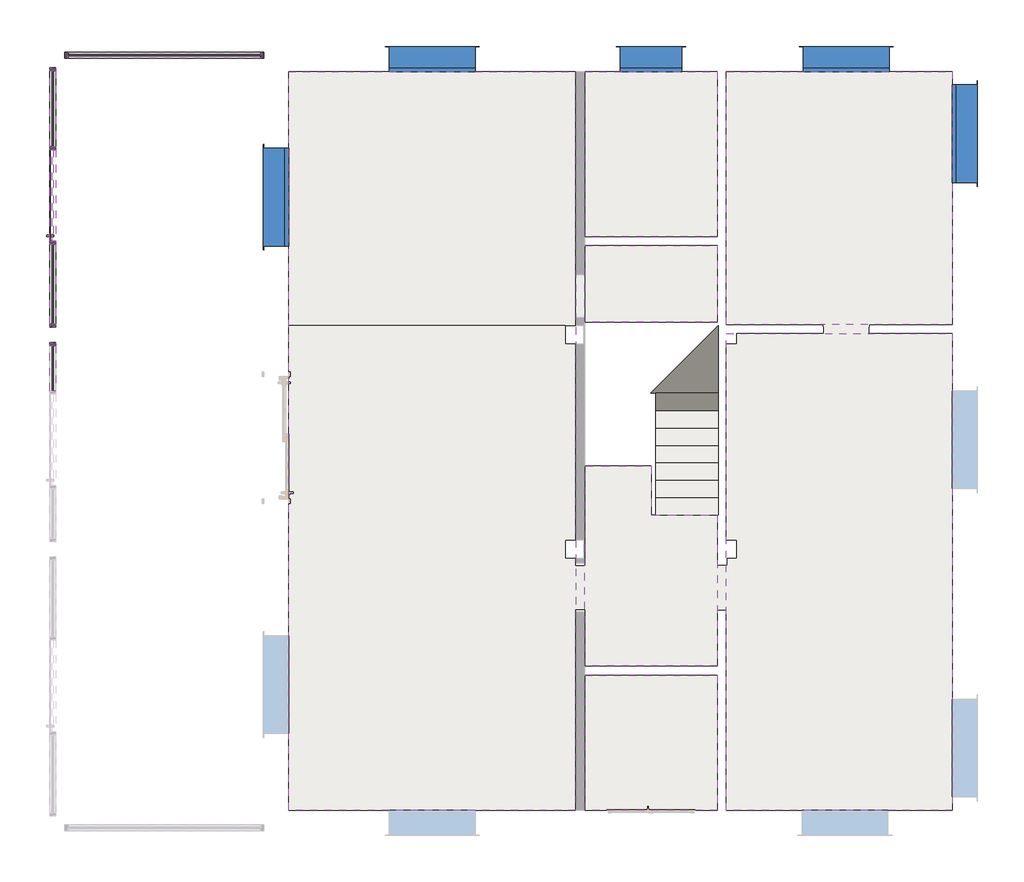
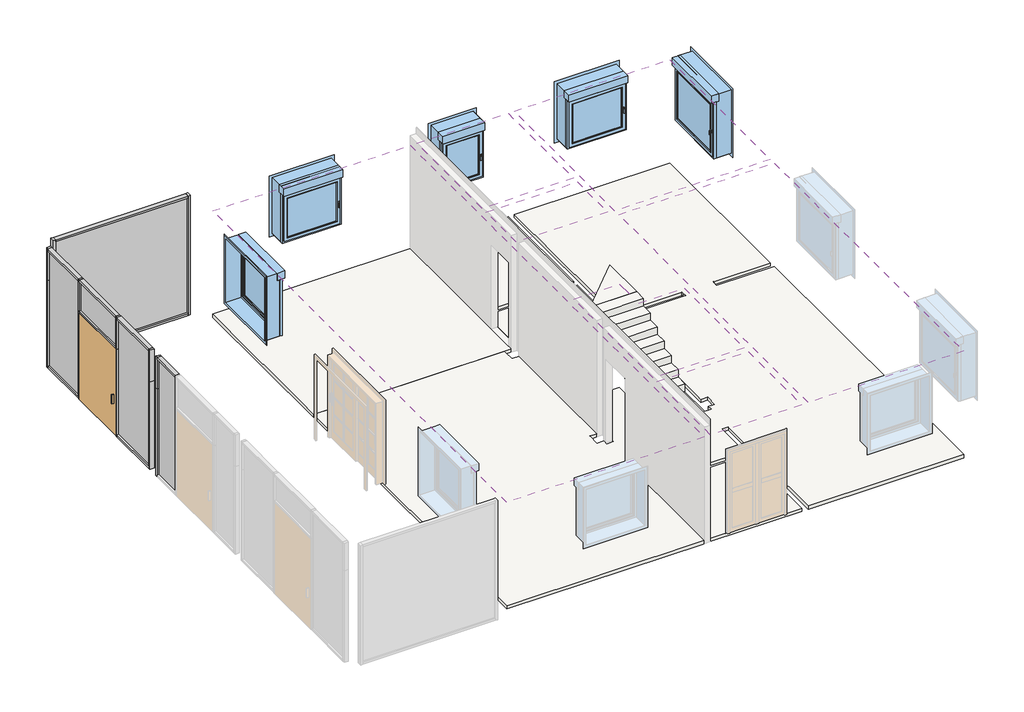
# One storey, part 2 of 2: 21 members, 8 coverings, 5 plates, 5 windows, 4 slabs, 1 door.
"""IFC4 building model written with IfcOpenShell, lengths in millimetres."""

from ifc_helpers import new_model, si_unit, frame, origin, place, context, project, spatial, polyline, outline, extrude, faceted_brep, transform, mapped, element, save
from components import puerta_de_cristal_abatible_en_muro_cortina_puerta_de_cristal_e47abdd4, montante_rectangular_montante_rectangular_5_x_10_cm_757a3403, montante_rectangular_montante_rectangular_5_x_10_cm_89af3980, montante_rectangular_montante_rectangular_5_x_10_cm_7540c517, montante_rectangular_montante_rectangular_5_x_10_cm_b6a986cb, montante_rectangular_montante_rectangular_5_x_10_cm_a84122ff, montante_rectangular_montante_rectangular_5_x_10_cm_d58ae21d, montante_rectangular_montante_rectangular_5_x_10_cm_def201b9, montante_rectangular_montante_rectangular_5_x_10_cm_ecc333cd, montante_rectangular_montante_rectangular_5_x_10_cm_75cd286d, montante_rectangular_montante_rectangular_5_x_10_cm_3bdb59d8, montante_rectangular_montante_rectangular_5_x_10_cm_b7e3f8f0, montante_rectangular_montante_rectangular_5_x_10_cm_58fb9ff4, montante_rectangular_montante_rectangular_5_x_10_cm_e7dd39f4, montante_rectangular_montante_rectangular_5_x_10_cm_abb3eff5, montante_rectangular_montante_rectangular_5_x_10_cm_99f3dc7d, montante_rectangular_montante_rectangular_5_x_10_cm_4604db76, montante_rectangular_montante_rectangular_5_x_10_cm_c0600e94, panel_de_sistema_acristalado_2e88a5b3, panel_de_sistema_acristalado_533c302c, panel_de_sistema_acristalado_0da035d6, panel_de_sistema_acristalado_3b8b9301, panel_de_sistema_acristalado_f75cf846, losa_escalera_2_losa_escalera_2_3b4d2fc1, losa_escalera_losa_escalera_d81f02f8, ventana_1_hoja_ve1_100_x_140_cm_ea734483, ventana_1_hoja_ve1_140_x_140_cm_f22eddc7, ventana_1_hoja_ve1_160_x_160_cm_969c779d

model = new_model("IFC4")

# Units and contexts
model_context = context("Model", 3, world=origin())
ifc_project = project(units=[si_unit("LENGTHUNIT", "METRE", prefix="MILLI")], contexts=[model_context])

# Site, building, storey
site = spatial("IfcSite", under=ifc_project)
building = spatial("IfcBuilding", under=site)
storey = spatial("IfcBuildingStorey", under=building, Name="01.AR.PLANTA BAJA ACAB.SUELO", Elevation=200.0)

# Coverings
placement = place(None, origin())
element("IfcCovering", 1, ObjectType="Falso techo continuo de placa de yeso laminado", at=placement, inside=storey, context=model_context, shape_type="SweptSolid", body=[
    extrude(outline(polyline([(11400.0, 3025.0), (11400.0, 815.0), (9230.0, 815.0), (9230.0, 3025.0), (11400.0, 3025.0)])), frame((0.0, 0.0, 2800.0), z_axis=(0.0, 0.0, 1.0), x_axis=(1.0, 0.0, 0.0)), (0.0, 0.0, 1.0), 60.0),
])
element("IfcCovering", 2, ObjectType="Falso techo continuo de placa de yeso laminado", at=placement, inside=storey, context=model_context, shape_type="SweptSolid", body=[
    extrude(outline(polyline([(15245.0, 815.0), (11550.0, 815.0), (11550.0, 8615.0), (15245.0, 8615.0), (15245.0, 815.0)])), frame((0.0, 0.0, 2800.0), z_axis=(0.0, 0.0, 1.0), x_axis=(1.0, 0.0, 0.0)), (0.0, 0.0, 1.0), 60.0),
])
element("IfcCovering", 3, ObjectType="Falso techo continuo de placa de yeso laminado", at=placement, inside=storey, context=model_context, shape_type="SweptSolid", body=[
    extrude(outline(polyline([(11550.0, 12906.5177396), (15245.0, 12906.5177396), (15245.0, 8765.0), (11550.0, 8765.0), (11550.0, 12906.5177396)])), frame((0.0, 0.0, 2800.0), z_axis=(0.0, 0.0, 1.0), x_axis=(1.0, 0.0, 0.0)), (0.0, 0.0, 1.0), 60.0),
])
element("IfcCovering", 4, ObjectType="Falso techo continuo de placa de yeso laminado", at=placement, inside=storey, context=model_context, shape_type="SweptSolid", body=[
    extrude(outline(polyline([(9230.0, 10205.0), (9230.0, 12906.5177396), (11400.0, 12906.5177396), (11400.0, 10205.0), (9230.0, 10205.0)])), frame((0.0, 0.0, 2800.0), z_axis=(0.0, 0.0, 1.0), x_axis=(1.0, 0.0, 0.0)), (0.0, 0.0, 1.0), 60.0),
])
element("IfcCovering", 5, ObjectType="Falso techo continuo de placa de yeso laminado", at=placement, inside=storey, context=model_context, shape_type="SweptSolid", body=[
    extrude(outline(polyline([(11400.0, 8805.0), (9230.0, 8805.0), (9230.0, 10055.0), (11400.0, 10055.0), (11400.0, 8805.0)])), frame((0.0, 0.0, 2800.0), z_axis=(0.0, 0.0, 1.0), x_axis=(1.0, 0.0, 0.0)), (0.0, 0.0, 1.0), 60.0),
])
element("IfcCovering", 6, ObjectType="Falso techo continuo de placa de yeso laminado", at=placement, inside=storey, context=model_context, shape_type="SweptSolid", body=[
    extrude(outline(polyline([(9080.0, 815.0), (4385.0, 815.0), (4385.0, 12906.5177396), (9080.0, 12906.5177396), (9080.0, 815.0)])), frame((0.0, 0.0, 2800.0), z_axis=(0.0, 0.0, 1.0), x_axis=(1.0, 0.0, 0.0)), (0.0, 0.0, 1.0), 60.0),
])
element("IfcCovering", 7, ObjectType="Falso techo continuo de placa de yeso laminado", at=placement, inside=storey, context=model_context, shape_type="SweptSolid", body=[
    extrude(outline(polyline([(9080.0, 815.0), (4385.0, 815.0), (4385.0, 12906.5177396), (9080.0, 12906.5177396), (9080.0, 815.0)])), frame((0.0, 0.0, 2800.0), z_axis=(0.0, 0.0, 1.0), x_axis=(1.0, 0.0, 0.0)), (0.0, 0.0, 1.0), 60.0),
])
element("IfcCovering", 8, ObjectType="Falso techo continuo de placa de yeso laminado", at=placement, inside=storey, context=model_context, shape_type="SweptSolid", body=[
    extrude(outline(polyline([(11400.0, 3175.0), (9230.0, 3175.0), (9230.0, 6450.0), (10320.0, 6450.0), (10320.0, 5650.0), (11400.0, 5650.0), (11400.0, 3175.0)])), frame((0.0, 0.0, 2800.0), z_axis=(0.0, 0.0, 1.0), x_axis=(1.0, 0.0, 0.0)), (0.0, 0.0, 1.0), 60.0),
])

# Door
puerta_de_cristal_abatible_en_muro_cortina_puerta_de_cristal_shape = puerta_de_cristal_abatible_en_muro_cortina_puerta_de_cristal_e47abdd4(model_context)
element("IfcDoor", 9, ObjectType="Puerta de cristal abatible en muro cortina : Puerta de cristal abatible en muro cortina", at=placement, inside=storey, context=model_context, shape_type="MappedRepresentation", body=[
    mapped(puerta_de_cristal_abatible_en_muro_cortina_puerta_de_cristal_shape, transform((525.0, 10880.0, 200.0), x_axis=(0.0, 1.0, 0.0), y_axis=(-1.0, 0.0, 0.0), z_axis=(0.0, 0.0, 1.0))),
])

# Members
montante_rectangular_montante_rectangular_5_x_10_cm_shape = montante_rectangular_montante_rectangular_5_x_10_cm_757a3403(model_context)
element("IfcMember", 10, ObjectType="Montante rectangular : Montante rectangular - 5 x 10 cm", at=placement, inside=storey, context=model_context, shape_type="MappedRepresentation", body=[
    mapped(montante_rectangular_montante_rectangular_5_x_10_cm_shape, transform((3925.0, 13175.0, 3200.0), x_axis=(0.0, 0.0, 1.0), y_axis=(0.0, -1.0, 0.0), z_axis=(1.0, 0.0, 0.0))),
])
montante_rectangular_montante_rectangular_5_x_10_cm_2_shape = montante_rectangular_montante_rectangular_5_x_10_cm_89af3980(model_context)
element("IfcMember", 11, ObjectType="Montante rectangular : Montante rectangular - 5 x 10 cm", at=placement, inside=storey, context=model_context, shape_type="MappedRepresentation", body=[
    mapped(montante_rectangular_montante_rectangular_5_x_10_cm_2_shape, transform((775.0, 13175.0, 200.0), x_axis=(0.0, 0.0, -1.0), y_axis=(0.0, -1.0, 0.0), z_axis=(-1.0, 0.0, 0.0))),
])
montante_rectangular_montante_rectangular_5_x_10_cm_3_shape = montante_rectangular_montante_rectangular_5_x_10_cm_7540c517(model_context)
element("IfcMember", 12, ObjectType="Montante rectangular : Montante rectangular - 5 x 10 cm", at=placement, inside=storey, context=model_context, shape_type="MappedRepresentation", body=[
    mapped(montante_rectangular_montante_rectangular_5_x_10_cm_3_shape, transform((725.0, 13175.0, 3200.0), x_axis=(-1.0, 0.0, 0.0), y_axis=(0.0, -1.0, 0.0), z_axis=(0.0, 0.0, 1.0))),
])
montante_rectangular_montante_rectangular_5_x_10_cm_4_shape = montante_rectangular_montante_rectangular_5_x_10_cm_b6a986cb(model_context)
element("IfcMember", 13, ObjectType="Montante rectangular : Montante rectangular - 5 x 10 cm", at=placement, inside=storey, context=model_context, shape_type="MappedRepresentation", body=[
    mapped(montante_rectangular_montante_rectangular_5_x_10_cm_4_shape, transform((3975.0, 13175.0, 200.0), x_axis=(1.0, 0.0, 0.0), y_axis=(0.0, -1.0, 0.0), z_axis=(0.0, 0.0, -1.0))),
])
montante_rectangular_montante_rectangular_5_x_10_cm_5_shape = montante_rectangular_montante_rectangular_5_x_10_cm_a84122ff(model_context)
element("IfcMember", 14, ObjectType="Montante rectangular : Montante rectangular - 5 x 10 cm", at=placement, inside=storey, context=model_context, shape_type="MappedRepresentation", body=[
    mapped(montante_rectangular_montante_rectangular_5_x_10_cm_5_shape, transform((525.0, 12925.0, 3200.0), x_axis=(0.0, 0.0, 1.0), y_axis=(1.0, 0.0, 0.0), z_axis=(0.0, 1.0, 0.0))),
])
montante_rectangular_montante_rectangular_5_x_10_cm_6_shape = montante_rectangular_montante_rectangular_5_x_10_cm_d58ae21d(model_context)
element("IfcMember", 15, ObjectType="Montante rectangular : Montante rectangular - 5 x 10 cm", at=placement, inside=storey, context=model_context, shape_type="MappedRepresentation", body=[
    mapped(montante_rectangular_montante_rectangular_5_x_10_cm_6_shape, transform((525.0, 11680.0, 200.0), x_axis=(0.0, 0.0, -1.0), y_axis=(1.0, 0.0, 0.0), z_axis=(0.0, -1.0, 0.0))),
])
montante_rectangular_montante_rectangular_5_x_10_cm_7_shape = montante_rectangular_montante_rectangular_5_x_10_cm_def201b9(model_context)
element("IfcMember", 16, ObjectType="Montante rectangular : Montante rectangular - 5 x 10 cm", at=placement, inside=storey, context=model_context, shape_type="MappedRepresentation", body=[
    mapped(montante_rectangular_montante_rectangular_5_x_10_cm_7_shape, transform((525.0, 8775.0, 200.0), x_axis=(0.0, 0.0, -1.0), y_axis=(1.0, 0.0, 0.0), z_axis=(0.0, -1.0, 0.0))),
])
montante_rectangular_montante_rectangular_5_x_10_cm_8_shape = montante_rectangular_montante_rectangular_5_x_10_cm_ecc333cd(model_context)
element("IfcMember", 17, ObjectType="Montante rectangular : Montante rectangular - 5 x 10 cm", at=placement, inside=storey, context=model_context, shape_type="MappedRepresentation", body=[
    mapped(montante_rectangular_montante_rectangular_5_x_10_cm_8_shape, transform((525.0, 10080.0, 3200.0), x_axis=(0.0, 0.0, 1.0), y_axis=(1.0, 0.0, 0.0), z_axis=(0.0, 1.0, 0.0))),
])
montante_rectangular_montante_rectangular_5_x_10_cm_9_shape = montante_rectangular_montante_rectangular_5_x_10_cm_75cd286d(model_context)
element("IfcMember", 18, ObjectType="Montante rectangular : Montante rectangular - 5 x 10 cm", at=placement, inside=storey, context=model_context, shape_type="MappedRepresentation", body=[
    mapped(montante_rectangular_montante_rectangular_5_x_10_cm_9_shape, transform((525.0, 8425.0, 3200.0), x_axis=(0.0, 0.0, 1.0), y_axis=(1.0, 0.0, 0.0), z_axis=(0.0, 1.0, 0.0))),
])
montante_rectangular_montante_rectangular_5_x_10_cm_10_shape = montante_rectangular_montante_rectangular_5_x_10_cm_3bdb59d8(model_context)
element("IfcMember", 19, ObjectType="Montante rectangular : Montante rectangular - 5 x 10 cm", at=placement, inside=storey, context=model_context, shape_type="MappedRepresentation", body=[
    mapped(montante_rectangular_montante_rectangular_5_x_10_cm_10_shape, transform((525.0, 11630.0, 3200.0), x_axis=(0.0, 0.0, 1.0), y_axis=(1.0, 0.0, 0.0), z_axis=(0.0, 1.0, 0.0))),
])
montante_rectangular_montante_rectangular_5_x_10_cm_11_shape = montante_rectangular_montante_rectangular_5_x_10_cm_b7e3f8f0(model_context)
element("IfcMember", 20, ObjectType="Montante rectangular : Montante rectangular - 5 x 10 cm", at=placement, inside=storey, context=model_context, shape_type="MappedRepresentation", body=[
    mapped(montante_rectangular_montante_rectangular_5_x_10_cm_11_shape, transform((525.0, 8725.0, 3200.0), x_axis=(0.0, -1.0, 0.0), y_axis=(1.0, 0.0, 0.0), z_axis=(0.0, 0.0, 1.0))),
])
montante_rectangular_montante_rectangular_5_x_10_cm_12_shape = montante_rectangular_montante_rectangular_5_x_10_cm_58fb9ff4(model_context)
element("IfcMember", 21, ObjectType="Montante rectangular : Montante rectangular - 5 x 10 cm", at=placement, inside=storey, context=model_context, shape_type="MappedRepresentation", body=[
    mapped(montante_rectangular_montante_rectangular_5_x_10_cm_12_shape, transform((525.0, 8475.0, 200.0), x_axis=(0.0, 1.0, 0.0), y_axis=(1.0, 0.0, 0.0), z_axis=(0.0, 0.0, -1.0))),
])
element("IfcMember", 22, ObjectType="Montante rectangular : Montante rectangular - 5 x 10 cm", at=placement, inside=storey, context=model_context, shape_type="MappedRepresentation", body=[
    mapped(montante_rectangular_montante_rectangular_5_x_10_cm_12_shape, transform((525.0, 12975.0, 200.0), x_axis=(0.0, 1.0, 0.0), y_axis=(1.0, 0.0, 0.0), z_axis=(0.0, 0.0, -1.0))),
])
montante_rectangular_montante_rectangular_5_x_10_cm_13_shape = montante_rectangular_montante_rectangular_5_x_10_cm_e7dd39f4(model_context)
element("IfcMember", 23, ObjectType="Montante rectangular : Montante rectangular - 5 x 10 cm", at=placement, inside=storey, context=model_context, shape_type="MappedRepresentation", body=[
    mapped(montante_rectangular_montante_rectangular_5_x_10_cm_13_shape, transform((525.0, 8725.0, 2400.0), x_axis=(0.0, -1.0, 0.0), y_axis=(1.0, 0.0, 0.0), z_axis=(0.0, 0.0, 1.0))),
])
montante_rectangular_montante_rectangular_5_x_10_cm_14_shape = montante_rectangular_montante_rectangular_5_x_10_cm_abb3eff5(model_context)
element("IfcMember", 24, ObjectType="Montante rectangular : Montante rectangular - 5 x 10 cm", at=placement, inside=storey, context=model_context, shape_type="MappedRepresentation", body=[
    mapped(montante_rectangular_montante_rectangular_5_x_10_cm_14_shape, transform((525.0, 12975.0, 2400.0), x_axis=(0.0, 1.0, 0.0), y_axis=(1.0, 0.0, 0.0), z_axis=(0.0, 0.0, -1.0))),
])
element("IfcMember", 25, ObjectType="Montante rectangular : Montante rectangular - 5 x 10 cm", at=placement, inside=storey, context=model_context, shape_type="MappedRepresentation", body=[
    mapped(montante_rectangular_montante_rectangular_5_x_10_cm_14_shape, transform((525.0, 8475.0, 2400.0), x_axis=(0.0, 1.0, 0.0), y_axis=(1.0, 0.0, 0.0), z_axis=(0.0, 0.0, -1.0))),
])
montante_rectangular_montante_rectangular_5_x_10_cm_15_shape = montante_rectangular_montante_rectangular_5_x_10_cm_99f3dc7d(model_context)
element("IfcMember", 26, ObjectType="Montante rectangular : Montante rectangular - 5 x 10 cm", at=placement, inside=storey, context=model_context, shape_type="MappedRepresentation", body=[
    mapped(montante_rectangular_montante_rectangular_5_x_10_cm_15_shape, transform((525.0, 11655.0, 200.0), x_axis=(0.0, 1.0, 0.0), y_axis=(1.0, 0.0, 0.0), z_axis=(0.0, 0.0, -1.0))),
])
element("IfcMember", 27, ObjectType="Montante rectangular : Montante rectangular - 5 x 10 cm", at=placement, inside=storey, context=model_context, shape_type="MappedRepresentation", body=[
    mapped(montante_rectangular_montante_rectangular_5_x_10_cm_15_shape, transform((525.0, 10105.0, 200.0), x_axis=(0.0, 1.0, 0.0), y_axis=(1.0, 0.0, 0.0), z_axis=(0.0, 0.0, -1.0))),
])
montante_rectangular_montante_rectangular_5_x_10_cm_16_shape = montante_rectangular_montante_rectangular_5_x_10_cm_4604db76(model_context)
element("IfcMember", 28, ObjectType="Montante rectangular : Montante rectangular - 5 x 10 cm", at=placement, inside=storey, context=model_context, shape_type="MappedRepresentation", body=[
    mapped(montante_rectangular_montante_rectangular_5_x_10_cm_16_shape, transform((525.0, 11655.0, 2400.0), x_axis=(0.0, 1.0, 0.0), y_axis=(1.0, 0.0, 0.0), z_axis=(0.0, 0.0, -1.0))),
])
element("IfcMember", 29, ObjectType="Montante rectangular : Montante rectangular - 5 x 10 cm", at=placement, inside=storey, context=model_context, shape_type="MappedRepresentation", body=[
    mapped(montante_rectangular_montante_rectangular_5_x_10_cm_16_shape, transform((525.0, 10105.0, 2400.0), x_axis=(0.0, 1.0, 0.0), y_axis=(1.0, 0.0, 0.0), z_axis=(0.0, 0.0, -1.0))),
])
montante_rectangular_montante_rectangular_5_x_10_cm_17_shape = montante_rectangular_montante_rectangular_5_x_10_cm_c0600e94(model_context)
element("IfcMember", 30, ObjectType="Montante rectangular : Montante rectangular - 5 x 10 cm", at=placement, inside=storey, context=model_context, shape_type="MappedRepresentation", body=[
    mapped(montante_rectangular_montante_rectangular_5_x_10_cm_17_shape, transform((525.0, 11630.0, 2400.0), x_axis=(0.0, 0.0, 1.0), y_axis=(1.0, 0.0, 0.0), z_axis=(0.0, 1.0, 0.0))),
])

# Plates
panel_de_sistema_acristalado_shape = panel_de_sistema_acristalado_2e88a5b3(model_context)
element("IfcPlate", 31, ObjectType="Panel de sistema : Acristalado", at=placement, inside=storey, context=model_context, shape_type="MappedRepresentation", body=[
    mapped(panel_de_sistema_acristalado_shape, transform((2350.0, 13175.0, 250.0), x_axis=(1.0, 0.0, 0.0), y_axis=(0.0, 1.0, 0.0), z_axis=(0.0, 0.0, 1.0))),
])
panel_de_sistema_acristalado_2_shape = panel_de_sistema_acristalado_533c302c(model_context)
element("IfcPlate", 32, ObjectType="Panel de sistema : Acristalado", at=placement, inside=storey, context=model_context, shape_type="MappedRepresentation", body=[
    mapped(panel_de_sistema_acristalado_2_shape, transform((525.0, 9427.5, 250.0), x_axis=(0.0, 1.0, 0.0), y_axis=(-1.0, 0.0, 0.0), z_axis=(0.0, 0.0, 1.0))),
])
panel_de_sistema_acristalado_3_shape = panel_de_sistema_acristalado_0da035d6(model_context)
element("IfcPlate", 33, ObjectType="Panel de sistema : Acristalado", at=placement, inside=storey, context=model_context, shape_type="MappedRepresentation", body=[
    mapped(panel_de_sistema_acristalado_3_shape, transform((525.0, 12302.5, 250.0), x_axis=(0.0, 1.0, 0.0), y_axis=(-1.0, 0.0, 0.0), z_axis=(0.0, 0.0, 1.0))),
])
panel_de_sistema_acristalado_4_shape = panel_de_sistema_acristalado_3b8b9301(model_context)
element("IfcPlate", 34, ObjectType="Panel de sistema : Acristalado", at=placement, inside=storey, context=model_context, shape_type="MappedRepresentation", body=[
    mapped(panel_de_sistema_acristalado_4_shape, transform((525.0, 8052.5, 250.0), x_axis=(0.0, 1.0, 0.0), y_axis=(-1.0, 0.0, 0.0), z_axis=(0.0, 0.0, 1.0))),
])
panel_de_sistema_acristalado_5_shape = panel_de_sistema_acristalado_f75cf846(model_context)
element("IfcPlate", 35, ObjectType="Panel de sistema : Acristalado", at=placement, inside=storey, context=model_context, shape_type="MappedRepresentation", body=[
    mapped(panel_de_sistema_acristalado_5_shape, transform((525.0, 10880.0, 2425.0), x_axis=(0.0, 1.0, 0.0), y_axis=(-1.0, 0.0, 0.0), z_axis=(0.0, 0.0, 1.0))),
])

# Slabs
element("IfcSlab", 36, ObjectType="Acabado de suelo gres", at=placement, inside=storey, context=model_context, shape_type="SweptSolid", body=[
    extrude(outline(polyline([(4385.0, 8750.0), (4385.0, 12906.5177396), (9080.0, 12906.5177396), (9080.0, 8750.0), (4385.0, 8750.0)])), frame((0.0, 0.0, 120.0), z_axis=(0.0, 0.0, 1.0), x_axis=(1.0, 0.0, 0.0)), (0.0, 0.0, 1.0), 80.0),
    extrude(outline(polyline([(11400.0, 12906.5177396), (11400.0, 10205.0), (9230.0, 10205.0), (9230.0, 12906.5177396), (11400.0, 12906.5177396)])), frame((0.0, 0.0, 120.0), z_axis=(0.0, 0.0, 1.0), x_axis=(1.0, 0.0, 0.0)), (0.0, 0.0, 1.0), 80.0),
])
element("IfcSlab", 37, ObjectType="Acabado de suelo parquet", at=placement, inside=storey, context=model_context, shape_type="Brep", body=[
    faceted_brep([(11400.0, 815.0, 120.0), (9230.0, 815.0, 120.0), (9230.0, 3025.0, 120.0), (11400.0, 3025.0, 120.0), (11400.0, 815.0, 200.0), (11400.0, 3025.0, 200.0), (9230.0, 3025.0, 200.0), (9230.0, 815.0, 200.0)], [[[0, 1, 2, 3]], [[4, 5, 6, 7]], [[1, 0, 4, 7]], [[2, 1, 7, 6]], [[3, 2, 6, 5]], [[0, 3, 5, 4]]]),
    faceted_brep([(9230.0, 3175.0, 120.0), (9230.0, 4095.0, 120.0), (9080.0, 4095.0, 120.0), (9080.0, 815.0, 120.0), (4385.0, 815.0, 120.0), (4385.0, 8750.0, 120.0), (8915.0, 8750.0, 120.0), (8915.0, 8450.0, 120.0), (9080.0, 8450.0, 120.0), (9080.0, 5240.0610844, 120.0), (8915.0, 5240.0610844, 120.0), (8915.0, 4940.0610844, 120.0), (9080.0, 4940.0610844, 120.0), (9080.0, 4825.0, 120.0), (9230.0, 4825.0, 120.0), (9230.0, 6450.0, 120.0), (10320.0, 6450.0, 120.0), (10320.0, 5650.0, 120.0), (11400.0, 5650.0, 120.0), (11400.0, 4825.0, 120.0), (11550.0, 4825.0, 120.0), (11560.0, 4825.0, 120.0), (11560.0, 4940.0610844, 120.0), (11715.0, 4940.0610844, 120.0), (11715.0, 5240.0610844, 120.0), (11550.0, 5240.0610844, 120.0), (11550.0, 8450.0, 120.0), (11715.0, 8450.0, 120.0), (11715.0, 8615.0, 120.0), (13145.0, 8615.0, 120.0), (13145.0, 8730.0, 120.0), (13135.0, 8730.0, 120.0), (13135.0, 8765.0, 120.0), (11550.0, 8765.0, 120.0), (11550.0, 12906.5177396, 120.0), (15245.0, 12906.5177396, 120.0), (15245.0, 8765.0, 120.0), (13885.0, 8765.0, 120.0), (13885.0, 8730.0, 120.0), (13875.0, 8730.0, 120.0), (13875.0, 8615.0, 120.0), (15245.0, 8615.0, 120.0), (15245.0, 815.0, 120.0), (11550.0, 815.0, 120.0), (11550.0, 4095.0, 120.0), (11400.0, 4095.0, 120.0), (11400.0, 3175.0, 120.0), (9230.0, 3175.0, 200.0), (11400.0, 3175.0, 200.0), (11400.0, 4060.0, 200.0), (11400.0, 4095.0, 200.0), (11550.0, 4095.0, 200.0), (11550.0, 4060.0, 200.0), (11550.0, 815.0, 200.0), (15245.0, 815.0, 200.0), (15245.0, 8615.0, 200.0), (13910.0, 8615.0, 200.0), (13875.0, 8615.0, 200.0), (13875.0, 8730.0, 200.0), (13885.0, 8730.0, 200.0), (13885.0, 8765.0, 200.0), (13910.0, 8765.0, 200.0), (15245.0, 8765.0, 200.0), (15245.0, 12906.5177396, 200.0), (11550.0, 12906.5177396, 200.0), (11550.0, 9580.0, 200.0), (11550.0, 8880.0, 200.0), (11550.0, 8765.0, 200.0), (13110.0, 8765.0, 200.0), (13135.0, 8765.0, 200.0), (13135.0, 8730.0, 200.0), (13145.0, 8730.0, 200.0), (13145.0, 8615.0, 200.0), (13110.0, 8615.0, 200.0), (11715.0, 8615.0, 200.0), (11715.0, 8450.0, 200.0), (11550.0, 8450.0, 200.0), (11550.0, 5240.0610844, 200.0), (11715.0, 5240.0610844, 200.0), (11715.0, 4940.0610844, 200.0), (11560.0, 4940.0610844, 200.0), (11560.0, 4825.0, 200.0), (11550.0, 4825.0, 200.0), (11400.0, 4825.0, 200.0), (11400.0, 4860.0, 200.0), (11400.0, 5650.0, 200.0), (10320.0, 5650.0, 200.0), (10320.0, 6450.0, 200.0), (9230.0, 6450.0, 200.0), (9230.0, 4860.0, 200.0), (9230.0, 4825.0, 200.0), (9080.0, 4825.0, 200.0), (9080.0, 4860.0, 200.0), (9080.0, 4940.0610844, 200.0), (8915.0, 4940.0610844, 200.0), (8915.0, 5240.0610844, 200.0), (9080.0, 5240.0610844, 200.0), (9080.0, 8450.0, 200.0), (8915.0, 8450.0, 200.0), (8915.0, 8750.0, 200.0), (4385.0, 8750.0, 200.0), (4385.0, 815.0, 200.0), (9080.0, 815.0, 200.0), (9080.0, 4060.0, 200.0), (9080.0, 4095.0, 200.0), (9230.0, 4095.0, 200.0), (9230.0, 4060.0, 200.0)], [[[0, 1, 2, 3, 4, 5, 6, 7, 8, 9, 10, 11, 12, 13, 14, 15, 16, 17, 18, 19, 20, 21, 22, 23, 24, 25, 26, 27, 28, 29, 30, 31, 32, 33, 34, 35, 36, 37, 38, 39, 40, 41, 42, 43, 44, 45, 46]], [[47, 48, 49, 50, 51, 52, 53, 54, 55, 56, 57, 58, 59, 60, 61, 62, 63, 64, 65, 66, 67, 68, 69, 70, 71, 72, 73, 74, 75, 76, 77, 78, 79, 80, 81, 82, 83, 84, 85, 86, 87, 88, 89, 90, 91, 92, 93, 94, 95, 96, 97, 98, 99, 100, 101, 102, 103, 104, 105, 106]], [[1, 0, 47, 106, 105]], [[16, 15, 88, 87]], [[17, 16, 87, 86]], [[18, 17, 86, 85]], [[19, 18, 85, 84, 83]], [[0, 46, 48, 47]], [[43, 42, 54, 53]], [[44, 43, 53, 52, 51]], [[23, 22, 80, 79]], [[24, 23, 79, 78]], [[25, 24, 78, 77]], [[26, 25, 77, 76]], [[27, 26, 76, 75]], [[28, 27, 75, 74]], [[41, 40, 57, 56, 55]], [[42, 41, 55, 54]], [[5, 4, 101, 100]], [[6, 5, 100, 99]], [[7, 6, 99, 98]], [[8, 7, 98, 97]], [[9, 8, 97, 96]], [[10, 9, 96, 95]], [[11, 10, 95, 94]], [[12, 11, 94, 93]], [[3, 2, 104, 103, 102]], [[4, 3, 102, 101]], [[2, 1, 105, 104]], [[13, 12, 93, 92, 91]], [[14, 13, 91, 90]], [[15, 14, 90, 89, 88]], [[21, 20, 19, 83, 82, 81]], [[22, 21, 81, 80]], [[45, 44, 51, 50]], [[46, 45, 50, 49, 48]], [[29, 28, 74, 73, 72]], [[30, 29, 72, 71]], [[31, 30, 71, 70]], [[32, 31, 70, 69]], [[33, 32, 69, 68, 67]], [[34, 33, 67, 66, 65, 64]], [[35, 34, 64, 63]], [[36, 35, 63, 62]], [[37, 36, 62, 61, 60]], [[38, 37, 60, 59]], [[39, 38, 59, 58]], [[40, 39, 58, 57]]]),
    faceted_brep([(11400.0, 10055.0, 120.0), (11400.0, 8805.0, 120.0), (9230.0, 8805.0, 120.0), (9230.0, 10055.0, 120.0), (11400.0, 10055.0, 200.0), (9230.0, 10055.0, 200.0), (9230.0, 9580.0, 200.0), (9230.0, 8880.0, 200.0), (9230.0, 8805.0, 200.0), (11400.0, 8805.0, 200.0), (11400.0, 8880.0, 200.0), (11400.0, 9580.0, 200.0)], [[[0, 1, 2, 3]], [[4, 5, 6, 7, 8, 9, 10, 11]], [[1, 0, 4, 11, 10, 9]], [[2, 1, 9, 8]], [[3, 2, 8, 7, 6, 5]], [[0, 3, 5, 4]]]),
])
losa_escalera_2_losa_escalera_2_shape = losa_escalera_2_losa_escalera_2_3b4d2fc1(model_context)
element("IfcSlab", 38, ObjectType="Losa Escalera 2 : Losa Escalera 2", at=placement, inside=storey, context=model_context, shape_type="MappedRepresentation", body=[
    mapped(losa_escalera_2_losa_escalera_2_shape, transform((0.0, 0.0, 0.0), x_axis=(1.0, 0.0, 0.0), y_axis=(0.0, 1.0, 0.0), z_axis=(0.0, 0.0, 1.0))),
])
losa_escalera_losa_escalera_shape = losa_escalera_losa_escalera_d81f02f8(model_context)
element("IfcSlab", 39, ObjectType="Losa escalera : Losa escalera", at=placement, inside=storey, context=model_context, shape_type="MappedRepresentation", body=[
    mapped(losa_escalera_losa_escalera_shape, transform((0.0, 0.0, 0.0), x_axis=(1.0, 0.0, 0.0), y_axis=(0.0, 1.0, 0.0), z_axis=(0.0, 0.0, 1.0))),
])

# Windows
ventana_1_hoja_ve1_100_x_140_cm_shape = ventana_1_hoja_ve1_100_x_140_cm_ea734483(model_context)
element("IfcWindow", 40, ObjectType="Ventana 1 hoja : VE1_100 x 140 cm", at=placement, inside=storey, context=model_context, shape_type="MappedRepresentation", body=[
    mapped(ventana_1_hoja_ve1_100_x_140_cm_shape, transform((10315.0, 13111.5177396, 600.0), x_axis=(1.0, 0.0, 0.0), y_axis=(0.0, 1.0, 0.0), z_axis=(0.0, 0.0, 1.0))),
])
ventana_1_hoja_ve1_140_x_140_cm_shape = ventana_1_hoja_ve1_140_x_140_cm_f22eddc7(model_context)
element("IfcWindow", 41, ObjectType="Ventana 1 hoja : VE1_140 x 140 cm", at=placement, inside=storey, context=model_context, shape_type="MappedRepresentation", body=[
    mapped(ventana_1_hoja_ve1_140_x_140_cm_shape, transform((6735.0, 13111.5177396, 600.0), x_axis=(1.0, 0.0, 0.0), y_axis=(0.0, 1.0, 0.0), z_axis=(0.0, 0.0, 1.0))),
])
element("IfcWindow", 42, ObjectType="Ventana 1 hoja : VE1_140 x 140 cm", at=placement, inside=storey, context=model_context, shape_type="MappedRepresentation", body=[
    mapped(ventana_1_hoja_ve1_140_x_140_cm_shape, transform((13510.0, 13111.5177396, 600.0), x_axis=(1.0, 0.0, 0.0), y_axis=(0.0, 1.0, 0.0), z_axis=(0.0, 0.0, 1.0))),
])
ventana_1_hoja_ve1_160_x_160_cm_shape = ventana_1_hoja_ve1_160_x_160_cm_969c779d(model_context)
element("IfcWindow", 43, ObjectType="Ventana 1 hoja : VE1_160 x 160 cm", at=placement, inside=storey, context=model_context, shape_type="MappedRepresentation", body=[
    mapped(ventana_1_hoja_ve1_160_x_160_cm_shape, transform((15450.0, 11891.5177396, 600.0), x_axis=(0.0, -1.0, 0.0), y_axis=(1.0, 0.0, 0.0), z_axis=(0.0, 0.0, 1.0))),
])
element("IfcWindow", 44, ObjectType="Ventana 1 hoja : VE1_160 x 160 cm", at=placement, inside=storey, context=model_context, shape_type="MappedRepresentation", body=[
    mapped(ventana_1_hoja_ve1_160_x_160_cm_shape, transform((4180.0, 10851.5177396, 600.0), x_axis=(0.0, 1.0, 0.0), y_axis=(-1.0, 0.0, 0.0), z_axis=(0.0, 0.0, 1.0))),
])

save(model, "model.ifc")
